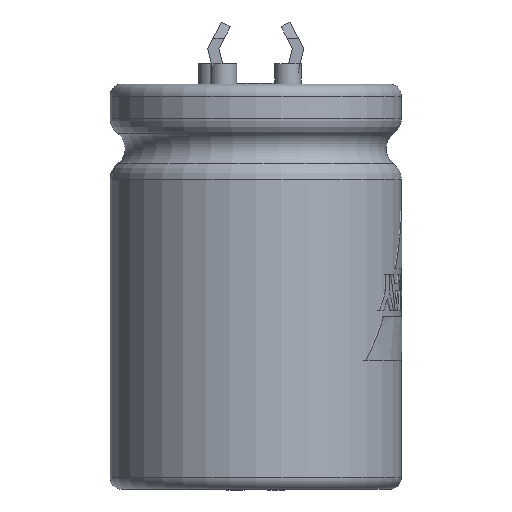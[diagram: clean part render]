
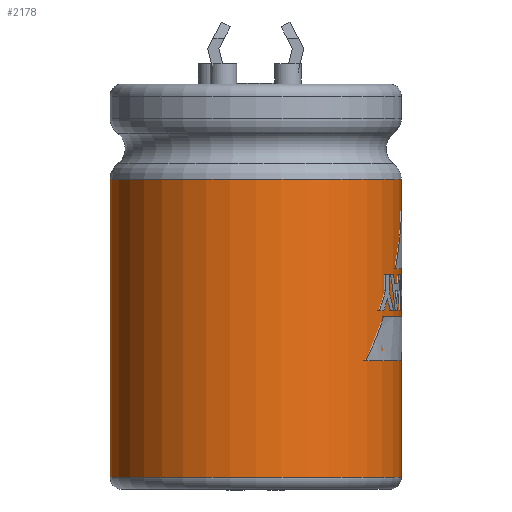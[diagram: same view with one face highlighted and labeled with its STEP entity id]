
A CAD part, left-side view. The second image highlights one B-rep face of the part: STEP entity #2178.
In plain terms, the highlighted cylindrical face has radius 11.5 mm (diameter 23 mm), a full revolution.
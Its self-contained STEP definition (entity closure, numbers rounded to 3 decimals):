
#2110 = TOROIDAL_SURFACE('',#2111,10.,1.5);
#2111 = AXIS2_PLACEMENT_3D('',#2112,#2113,#2114);
#2112 = CARTESIAN_POINT('',(0.,0.,-6.55));
#2113 = DIRECTION('',(0.,0.,1.));
#2114 = DIRECTION('',(1.,0.,0.));
#2126 = EDGE_CURVE('',#2127,#2127,#2129,.T.);
#2127 = VERTEX_POINT('',#2128);
#2128 = CARTESIAN_POINT('',(11.5,0.,-6.55));
#2129 = SURFACE_CURVE('',#2130,(#2135,#2142),.PCURVE_S1.);
#2130 = CIRCLE('',#2131,11.5);
#2131 = AXIS2_PLACEMENT_3D('',#2132,#2133,#2134);
#2132 = CARTESIAN_POINT('',(0.,0.,-6.55));
#2133 = DIRECTION('',(0.,0.,1.));
#2134 = DIRECTION('',(1.,0.,0.));
#2135 = PCURVE('',#2110,#2136);
#2136 = DEFINITIONAL_REPRESENTATION('',(#2137),#2141);
#2137 = LINE('',#2138,#2139);
#2138 = CARTESIAN_POINT('',(0.,6.283));
#2139 = VECTOR('',#2140,1.);
#2140 = DIRECTION('',(1.,0.));
#2141 = ( GEOMETRIC_REPRESENTATION_CONTEXT(2) 
PARAMETRIC_REPRESENTATION_CONTEXT() REPRESENTATION_CONTEXT('2D SPACE',''
  ) );
#2142 = PCURVE('',#2143,#2148);
#2143 = CYLINDRICAL_SURFACE('',#2144,11.5);
#2144 = AXIS2_PLACEMENT_3D('',#2145,#2146,#2147);
#2145 = CARTESIAN_POINT('',(0.,0.,-30.1));
#2146 = DIRECTION('',(0.,0.,1.));
#2147 = DIRECTION('',(1.,0.,0.));
#2148 = DEFINITIONAL_REPRESENTATION('',(#2149),#2153);
#2149 = LINE('',#2150,#2151);
#2150 = CARTESIAN_POINT('',(0.,23.55));
#2151 = VECTOR('',#2152,1.);
#2152 = DIRECTION('',(1.,0.));
#2153 = ( GEOMETRIC_REPRESENTATION_CONTEXT(2) 
PARAMETRIC_REPRESENTATION_CONTEXT() REPRESENTATION_CONTEXT('2D SPACE',''
  ) );
#2178 = ADVANCED_FACE('',(#2179),#2143,.T.);
#2179 = FACE_BOUND('',#2180,.T.);
#2180 = EDGE_LOOP('',(#2181,#2210,#2231,#2232));
#2181 = ORIENTED_EDGE('',*,*,#2182,.T.);
#2182 = EDGE_CURVE('',#2183,#2183,#2185,.T.);
#2183 = VERTEX_POINT('',#2184);
#2184 = CARTESIAN_POINT('',(11.5,0.,-30.1));
#2185 = SURFACE_CURVE('',#2186,(#2191,#2198),.PCURVE_S1.);
#2186 = CIRCLE('',#2187,11.5);
#2187 = AXIS2_PLACEMENT_3D('',#2188,#2189,#2190);
#2188 = CARTESIAN_POINT('',(0.,0.,-30.1));
#2189 = DIRECTION('',(0.,0.,1.));
#2190 = DIRECTION('',(1.,0.,0.));
#2191 = PCURVE('',#2143,#2192);
#2192 = DEFINITIONAL_REPRESENTATION('',(#2193),#2197);
#2193 = LINE('',#2194,#2195);
#2194 = CARTESIAN_POINT('',(0.,0.));
#2195 = VECTOR('',#2196,1.);
#2196 = DIRECTION('',(1.,0.));
#2197 = ( GEOMETRIC_REPRESENTATION_CONTEXT(2) 
PARAMETRIC_REPRESENTATION_CONTEXT() REPRESENTATION_CONTEXT('2D SPACE',''
  ) );
#2198 = PCURVE('',#2199,#2204);
#2199 = TOROIDAL_SURFACE('',#2200,10.55,0.95);
#2200 = AXIS2_PLACEMENT_3D('',#2201,#2202,#2203);
#2201 = CARTESIAN_POINT('',(0.,0.,-30.1));
#2202 = DIRECTION('',(0.,0.,1.));
#2203 = DIRECTION('',(1.,0.,0.));
#2204 = DEFINITIONAL_REPRESENTATION('',(#2205),#2209);
#2205 = LINE('',#2206,#2207);
#2206 = CARTESIAN_POINT('',(0.,6.283));
#2207 = VECTOR('',#2208,1.);
#2208 = DIRECTION('',(1.,0.));
#2209 = ( GEOMETRIC_REPRESENTATION_CONTEXT(2) 
PARAMETRIC_REPRESENTATION_CONTEXT() REPRESENTATION_CONTEXT('2D SPACE',''
  ) );
#2210 = ORIENTED_EDGE('',*,*,#2211,.T.);
#2211 = EDGE_CURVE('',#2183,#2127,#2212,.T.);
#2212 = SEAM_CURVE('',#2213,(#2217,#2224),.PCURVE_S1.);
#2213 = LINE('',#2214,#2215);
#2214 = CARTESIAN_POINT('',(11.5,0.,-30.1));
#2215 = VECTOR('',#2216,1.);
#2216 = DIRECTION('',(0.,0.,1.));
#2217 = PCURVE('',#2143,#2218);
#2218 = DEFINITIONAL_REPRESENTATION('',(#2219),#2223);
#2219 = LINE('',#2220,#2221);
#2220 = CARTESIAN_POINT('',(0.,0.));
#2221 = VECTOR('',#2222,1.);
#2222 = DIRECTION('',(0.,1.));
#2223 = ( GEOMETRIC_REPRESENTATION_CONTEXT(2) 
PARAMETRIC_REPRESENTATION_CONTEXT() REPRESENTATION_CONTEXT('2D SPACE',''
  ) );
#2224 = PCURVE('',#2143,#2225);
#2225 = DEFINITIONAL_REPRESENTATION('',(#2226),#2230);
#2226 = LINE('',#2227,#2228);
#2227 = CARTESIAN_POINT('',(6.283,0.));
#2228 = VECTOR('',#2229,1.);
#2229 = DIRECTION('',(0.,1.));
#2230 = ( GEOMETRIC_REPRESENTATION_CONTEXT(2) 
PARAMETRIC_REPRESENTATION_CONTEXT() REPRESENTATION_CONTEXT('2D SPACE',''
  ) );
#2231 = ORIENTED_EDGE('',*,*,#2126,.F.);
#2232 = ORIENTED_EDGE('',*,*,#2211,.F.);
